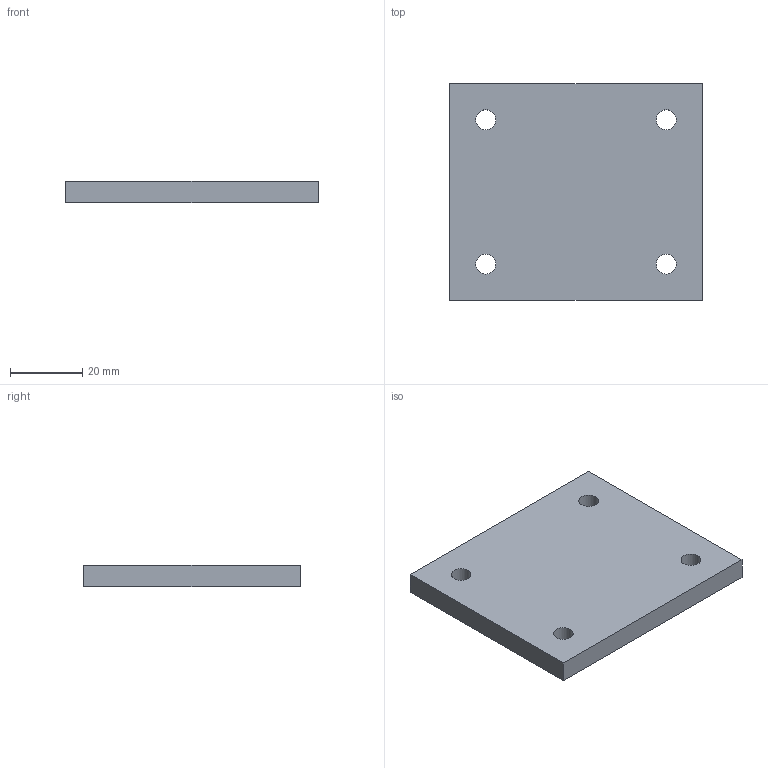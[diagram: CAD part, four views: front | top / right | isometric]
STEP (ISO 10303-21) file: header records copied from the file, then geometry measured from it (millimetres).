
FILE_DESCRIPTION(('Open CASCADE Model'),'2;1');
FILE_NAME('Open CASCADE Shape Model','2026-10-16T18:03:45',('Author'),( 'Open CASCADE'),'Open CASCADE STEP processor 7.8','Open CASCADE 7.8' ,'Unknown');
FILE_SCHEMA(('AUTOMOTIVE_DESIGN { 1 0 10303 214 1 1 1 1 }'));
Length unit declared in the file: millimetre
Products named in the file (1): Open CASCADE STEP translator 7.8 49
Bounding box: 70 x 60 x 6 mm (x, y, z)
Volume: 24629.8 mm3; surface area: 10184.6 mm2
Topology: 1 solids, 1 shells, 10 faces, 24 edges, 16 vertices
Faces by surface type: plane 6, cylinder 4
Full cylindrical faces by diameter (mm): 5.5 x4
Entity records: 658 total; most frequent: CARTESIAN_POINT 147, DIRECTION 94, LINE 56, VECTOR 56, ORIENTED_EDGE 48, PCURVE 48, DEFINITIONAL_REPRESENTATION 48, EDGE_CURVE 24
